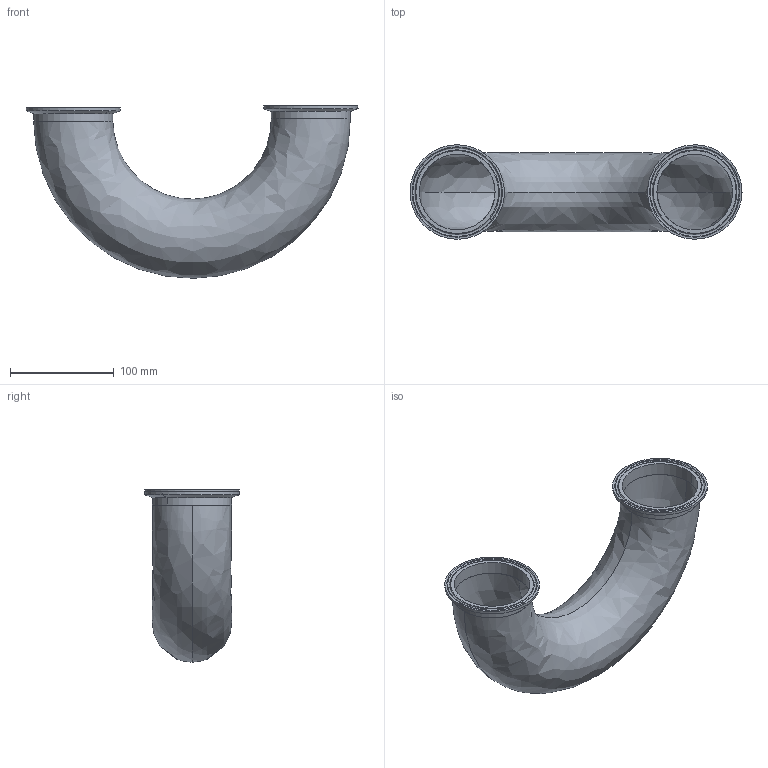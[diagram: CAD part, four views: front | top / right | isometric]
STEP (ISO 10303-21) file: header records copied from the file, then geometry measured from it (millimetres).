
FILE_DESCRIPTION (( 'STEP AP203' ), '1' );
FILE_NAME ('EG2WU3.0.STEP', '2018-05-01T14:28:55', ( 'vneprd' ), ( 'Microsoft' ), 'SwSTEP 2.0', 'SolidWorks 2014', '' );
FILE_SCHEMA (( 'CONFIG_CONTROL_DESIGN' ));
Length unit declared in the file: inch
Products named in the file (3): E2WU3.0; EG2CS3.0; EG2WU3.0
Assembly tree (3 placements, depth 2):
  EG2WU3.0
    E2WU3.0
    EG2CS3.0  x2
Bounding box: 319.49 x 90.9 x 166.12 mm (x, y, z)
Volume: 163434.9 mm3; surface area: 189867.5 mm2
Topology: 3 solids, 3 shells, 44 faces, 90 edges, 54 vertices
Faces by surface type: cylinder 12, torus 12, bspline 8, plane 8, cone 4
Entity records: 6575 total; most frequent: CARTESIAN_POINT 5671, DIRECTION 130, ORIENTED_EDGE 112, AXIS2_PLACEMENT_3D 61, EDGE_CURVE 56, CIRCLE 36, VERTEX_POINT 34, EDGE_LOOP 32
